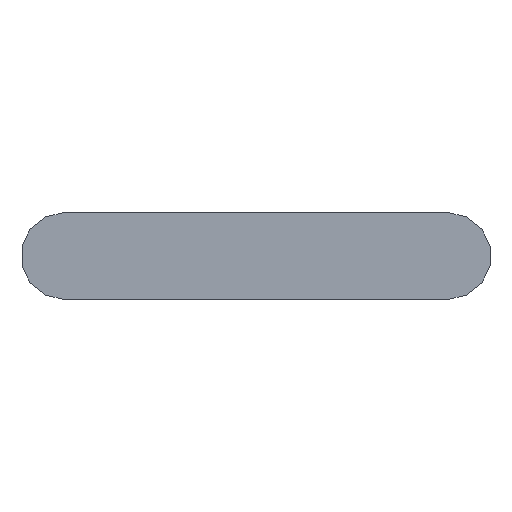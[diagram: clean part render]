
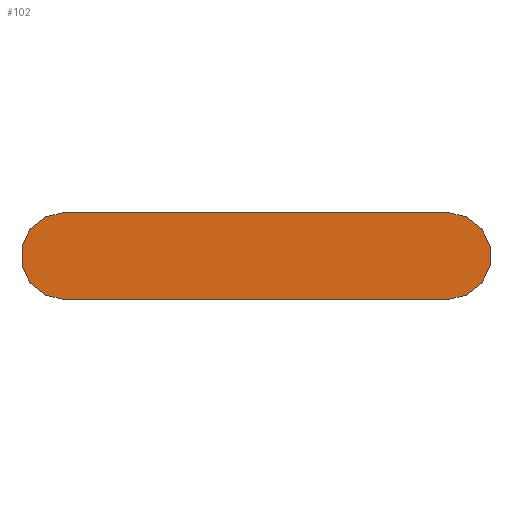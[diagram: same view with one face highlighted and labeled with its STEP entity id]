
A CAD part, front view. The second image highlights one B-rep face of the part: STEP entity #102.
In plain terms, the highlighted planar face has unit normal (0, -1, 0).
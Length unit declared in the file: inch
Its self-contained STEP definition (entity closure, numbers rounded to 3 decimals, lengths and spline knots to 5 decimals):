
#15=CIRCLE('',#119,0.0285);
#17=CIRCLE('',#123,0.0285);
#26=FACE_OUTER_BOUND('',#32,.T.);
#32=EDGE_LOOP('',(#89,#90,#91,#92));
#33=LINE('',#161,#41);
#38=LINE('',#175,#46);
#41=VECTOR('',#131,0.3937);
#46=VECTOR('',#144,0.3937);
#49=VERTEX_POINT('',#159);
#50=VERTEX_POINT('',#160);
#53=VERTEX_POINT('',#168);
#55=VERTEX_POINT('',#174);
#57=EDGE_CURVE('',#49,#50,#33,.T.);
#61=EDGE_CURVE('',#53,#49,#15,.T.);
#64=EDGE_CURVE('',#55,#53,#38,.T.);
#67=EDGE_CURVE('',#50,#55,#17,.T.);
#89=ORIENTED_EDGE('',*,*,#67,.F.);
#90=ORIENTED_EDGE('',*,*,#57,.F.);
#91=ORIENTED_EDGE('',*,*,#61,.F.);
#92=ORIENTED_EDGE('',*,*,#64,.F.);
#96=PLANE('',#126);
#102=ADVANCED_FACE('',(#26),#96,.F.);
#119=AXIS2_PLACEMENT_3D('',#169,#137,#138);
#123=AXIS2_PLACEMENT_3D('',#180,#149,#150);
#126=AXIS2_PLACEMENT_3D('',#183,#155,#156);
#131=DIRECTION('',(-1.,0.,0.));
#137=DIRECTION('center_axis',(0.,1.,0.));
#138=DIRECTION('ref_axis',(0.,0.,1.));
#144=DIRECTION('',(1.,0.,0.));
#149=DIRECTION('center_axis',(0.,1.,0.));
#150=DIRECTION('ref_axis',(0.,0.,-1.));
#155=DIRECTION('center_axis',(0.,1.,0.));
#156=DIRECTION('ref_axis',(1.,0.,0.));
#159=CARTESIAN_POINT('',(0.2795,0.,-0.0285));
#160=CARTESIAN_POINT('',(0.0285,0.,-0.0285));
#161=CARTESIAN_POINT('',(0.2795,0.,-0.0285));
#168=CARTESIAN_POINT('',(0.2795,0.,0.0285));
#169=CARTESIAN_POINT('Origin',(0.2795,0.,0.));
#174=CARTESIAN_POINT('',(0.0285,0.,0.0285));
#175=CARTESIAN_POINT('',(0.0285,0.,0.0285));
#180=CARTESIAN_POINT('Origin',(0.0285,0.,0.));
#183=CARTESIAN_POINT('Origin',(0.154,0.,0.));
